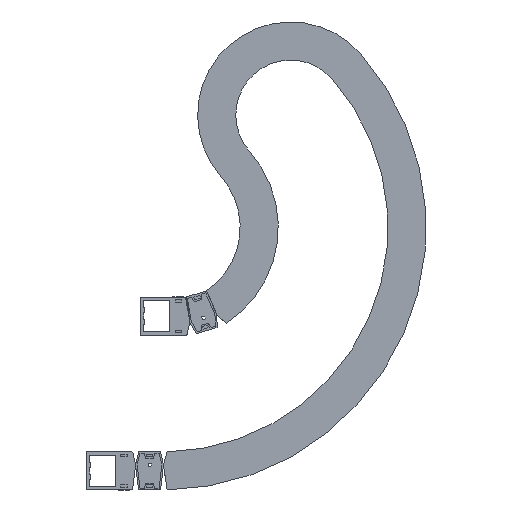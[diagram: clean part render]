
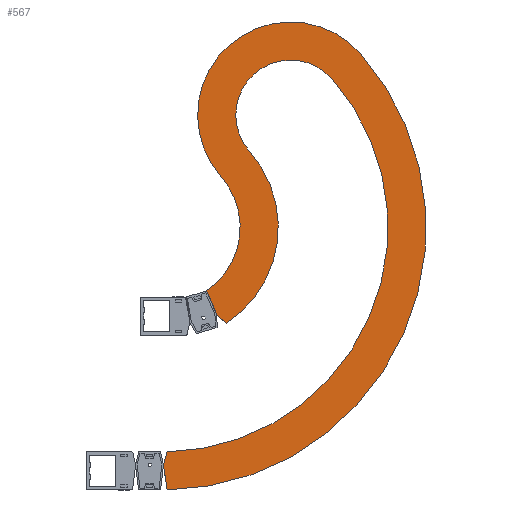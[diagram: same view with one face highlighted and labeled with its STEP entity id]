
A CAD part, front view. The second image highlights one B-rep face of the part: STEP entity #567.
In plain terms, the highlighted planar face has unit normal (0, -1, 0).
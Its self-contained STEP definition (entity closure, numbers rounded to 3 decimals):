
#567 = ADVANCED_FACE( '', ( #1264 ), #1265, .F. );
#1264 = FACE_OUTER_BOUND( '', #2124, .T. );
#1265 = PLANE( '', #2125 );
#2124 = EDGE_LOOP( '', ( #3633, #3634, #3635, #3636, #3637, #3638, #3639, #3640, #3641, #3642 ) );
#2125 = AXIS2_PLACEMENT_3D( '', #3643, #3644, #3645 );
#3633 = ORIENTED_EDGE( '', *, *, #5590, .F. );
#3634 = ORIENTED_EDGE( '', *, *, #5789, .F. );
#3635 = ORIENTED_EDGE( '', *, *, #5790, .F. );
#3636 = ORIENTED_EDGE( '', *, *, #5791, .T. );
#3637 = ORIENTED_EDGE( '', *, *, #5792, .F. );
#3638 = ORIENTED_EDGE( '', *, *, #5755, .F. );
#3639 = ORIENTED_EDGE( '', *, *, #5349, .F. );
#3640 = ORIENTED_EDGE( '', *, *, #5560, .T. );
#3641 = ORIENTED_EDGE( '', *, *, #5793, .T. );
#3642 = ORIENTED_EDGE( '', *, *, #5794, .F. );
#3643 = CARTESIAN_POINT( '', ( 0., -85., 0. ) );
#3644 = DIRECTION( '', ( 0., 1., 0. ) );
#3645 = DIRECTION( '', ( 0., 0., 1. ) );
#5349 = EDGE_CURVE( '', #6484, #6485, #6486, .T. );
#5560 = EDGE_CURVE( '', #6484, #6850, #6851, .T. );
#5590 = EDGE_CURVE( '', #6895, #6897, #6898, .T. );
#5755 = EDGE_CURVE( '', #6485, #7160, #7161, .T. );
#5789 = EDGE_CURVE( '', #7209, #6895, #7210, .T. );
#5790 = EDGE_CURVE( '', #7211, #7209, #7212, .T. );
#5791 = EDGE_CURVE( '', #7211, #7213, #7214, .T. );
#5792 = EDGE_CURVE( '', #7160, #7213, #7215, .T. );
#5793 = EDGE_CURVE( '', #6850, #7216, #7217, .T. );
#5794 = EDGE_CURVE( '', #6897, #7216, #7218, .T. );
#6484 = VERTEX_POINT( '', #8107 );
#6485 = VERTEX_POINT( '', #8108 );
#6486 = CIRCLE( '', #8109, 247. );
#6850 = VERTEX_POINT( '', #8621 );
#6851 = CIRCLE( '', #8622, 118. );
#6895 = VERTEX_POINT( '', #8686 );
#6897 = VERTEX_POINT( '', #8689 );
#6898 = LINE( '', #8690, #8691 );
#7160 = VERTEX_POINT( '', #9064 );
#7161 = LINE( '', #9065, #9066 );
#7209 = VERTEX_POINT( '', #9133 );
#7210 = CIRCLE( '', #9134, 565. );
#7211 = VERTEX_POINT( '', #9135 );
#7212 = CIRCLE( '', #9136, 200. );
#7213 = VERTEX_POINT( '', #9137 );
#7214 = CIRCLE( '', #9138, 165. );
#7215 = LINE( '', #9139, #9140 );
#7216 = VERTEX_POINT( '', #9141 );
#7217 = CIRCLE( '', #9142, 483. );
#7218 = LINE( '', #9143, #9144 );
#8107 = CARTESIAN_POINT( '', ( 185.08, -85., 163.567 ) );
#8108 = CARTESIAN_POINT( '', ( 135.342, -85., -206.619 ) );
#8109 = AXIS2_PLACEMENT_3D( '', #10061, #10062, #10063 );
#8621 = CARTESIAN_POINT( '', ( 361.918, -85., 319.85 ) );
#8622 = AXIS2_PLACEMENT_3D( '', #10296, #10297, #10298 );
#8686 = CARTESIAN_POINT( '', ( 7.873, -85., -564.945 ) );
#8689 = CARTESIAN_POINT( '', ( 0., -85., -511.2 ) );
#8690 = CARTESIAN_POINT( '', ( 7.873, -85., -564.945 ) );
#8691 = VECTOR( '', #10326, 1000. );
#9064 = CARTESIAN_POINT( '', ( 114.074, -85., -186.71 ) );
#9065 = CARTESIAN_POINT( '', ( 135.342, -85., -206.619 ) );
#9066 = VECTOR( '', #10501, 1000. );
#9133 = CARTESIAN_POINT( '', ( 423.362, -85., 374.152 ) );
#9134 = AXIS2_PLACEMENT_3D( '', #10536, #10537, #10538 );
#9135 = CARTESIAN_POINT( '', ( 123.637, -85., 109.266 ) );
#9136 = AXIS2_PLACEMENT_3D( '', #10539, #10540, #10541 );
#9137 = CARTESIAN_POINT( '', ( 92.675, -85., -136.515 ) );
#9138 = AXIS2_PLACEMENT_3D( '', #10542, #10543, #10544 );
#9139 = CARTESIAN_POINT( '', ( 114.074, -85., -186.71 ) );
#9140 = VECTOR( '', #10545, 1000. );
#9141 = CARTESIAN_POINT( '', ( 7.82, -85., -482.937 ) );
#9142 = AXIS2_PLACEMENT_3D( '', #10546, #10547, #10548 );
#9143 = CARTESIAN_POINT( '', ( 0., -85., -511.2 ) );
#9144 = VECTOR( '', #10549, 1000. );
#10061 = CARTESIAN_POINT( '', ( 0., -85., 0. ) );
#10062 = DIRECTION( '', ( 0., 1., 0. ) );
#10063 = DIRECTION( '', ( 1., 0., 0. ) );
#10296 = CARTESIAN_POINT( '', ( 273.499, -85., 241.709 ) );
#10297 = DIRECTION( '', ( 0., 1., 0. ) );
#10298 = DIRECTION( '', ( 1., 0., 0. ) );
#10326 = DIRECTION( '', ( -0.145, 0., 0.989 ) );
#10501 = DIRECTION( '', ( -0.73, 0., 0.683 ) );
#10536 = CARTESIAN_POINT( '', ( 0., -85., 0. ) );
#10537 = DIRECTION( '', ( 0., 1., 0. ) );
#10538 = DIRECTION( '', ( 1., 0., 0. ) );
#10539 = CARTESIAN_POINT( '', ( 273.499, -85., 241.709 ) );
#10540 = DIRECTION( '', ( 0., 1., 0. ) );
#10541 = DIRECTION( '', ( 1., 0., 0. ) );
#10542 = CARTESIAN_POINT( '', ( 0., -85., 0. ) );
#10543 = DIRECTION( '', ( 0., 1., 0. ) );
#10544 = DIRECTION( '', ( 1., 0., 0. ) );
#10545 = DIRECTION( '', ( -0.392, 0., 0.92 ) );
#10546 = CARTESIAN_POINT( '', ( 0., -85., 0. ) );
#10547 = DIRECTION( '', ( 0., 1., 0. ) );
#10548 = DIRECTION( '', ( 1., 0., 0. ) );
#10549 = DIRECTION( '', ( 0.267, 0., 0.964 ) );
